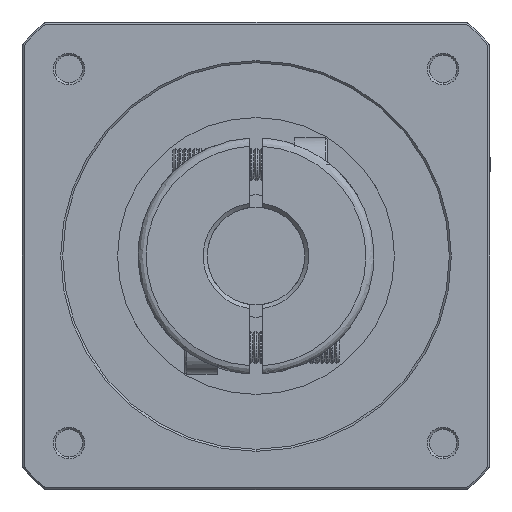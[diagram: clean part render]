
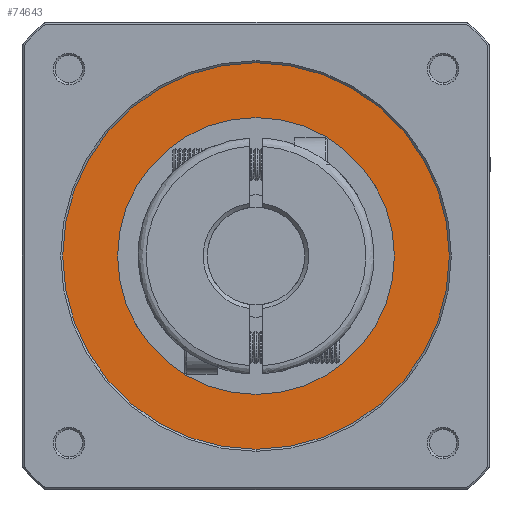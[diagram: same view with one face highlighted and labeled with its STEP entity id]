
A CAD part, front view. The second image highlights one B-rep face of the part: STEP entity #74643.
In plain terms, the highlighted planar face has unit normal (0, 1, 0).
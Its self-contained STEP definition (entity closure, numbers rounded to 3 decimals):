
#2362 = DIRECTION ( 'NONE',  ( 0., 0., -1. ) ) ;
#2710 = EDGE_CURVE ( 'NONE', #10079, #84926, #67877, .T. ) ;
#5386 = ORIENTED_EDGE ( 'NONE', *, *, #54806, .T. ) ;
#10079 = VERTEX_POINT ( 'NONE', #98232 ) ;
#16128 = CARTESIAN_POINT ( 'NONE',  ( 0., -131.611, 0. ) ) ;
#17791 = VERTEX_POINT ( 'NONE', #57536 ) ;
#22002 = FACE_OUTER_BOUND ( 'NONE', #53081, .T. ) ;
#23924 = DIRECTION ( 'NONE',  ( 0., 0., 1. ) ) ;
#24390 = CARTESIAN_POINT ( 'NONE',  ( -48.07, -131.611, -48.07 ) ) ;
#29654 = AXIS2_PLACEMENT_3D ( 'NONE', #37561, #91793, #45368 ) ;
#31225 = EDGE_LOOP ( 'NONE', ( #66202, #5386 ) ) ;
#32176 = DIRECTION ( 'NONE',  ( 1., 0., 0. ) ) ;
#32884 = VERTEX_POINT ( 'NONE', #34797 ) ;
#34797 = CARTESIAN_POINT ( 'NONE',  ( 0., -131.611, 34. ) ) ;
#37561 = CARTESIAN_POINT ( 'NONE',  ( 0., -131.611, 0. ) ) ;
#38237 = CARTESIAN_POINT ( 'NONE',  ( 0., -131.611, 0. ) ) ;
#40143 = AXIS2_PLACEMENT_3D ( 'NONE', #24390, #78514, #32176 ) ;
#43021 = ORIENTED_EDGE ( 'NONE', *, *, #2710, .F. ) ;
#45368 = DIRECTION ( 'NONE',  ( 0., 0., -1. ) ) ;
#46011 = DIRECTION ( 'NONE',  ( 0., 0., 1. ) ) ;
#47611 = EDGE_CURVE ( 'NONE', #84926, #10079, #80972, .T. ) ;
#48779 = DIRECTION ( 'NONE',  ( 0., -1., 0. ) ) ;
#49102 = ORIENTED_EDGE ( 'NONE', *, *, #47611, .F. ) ;
#53081 = EDGE_LOOP ( 'NONE', ( #49102, #43021 ) ) ;
#54806 = EDGE_CURVE ( 'NONE', #17791, #32884, #92690, .T. ) ;
#57536 = CARTESIAN_POINT ( 'NONE',  ( 0., -131.611, -34. ) ) ;
#59510 = AXIS2_PLACEMENT_3D ( 'NONE', #95170, #48779, #2362 ) ;
#60733 = FACE_BOUND ( 'NONE', #31225, .T. ) ;
#66202 = ORIENTED_EDGE ( 'NONE', *, *, #70901, .T. ) ;
#67336 = AXIS2_PLACEMENT_3D ( 'NONE', #38237, #92429, #46011 ) ;
#67877 = CIRCLE ( 'NONE', #59510, 47.5 ) ;
#70221 = DIRECTION ( 'NONE',  ( 0., -1., 0. ) ) ;
#70901 = EDGE_CURVE ( 'NONE', #32884, #17791, #96026, .T. ) ;
#74643 = ADVANCED_FACE ( 'NONE', ( #60733, #22002 ), #93755, .F. ) ;
#78514 = DIRECTION ( 'NONE',  ( 0., -1., 0. ) ) ;
#80972 = CIRCLE ( 'NONE', #29654, 47.5 ) ;
#84926 = VERTEX_POINT ( 'NONE', #89716 ) ;
#89716 = CARTESIAN_POINT ( 'NONE',  ( 0., -131.611, -47.5 ) ) ;
#91793 = DIRECTION ( 'NONE',  ( 0., -1., 0. ) ) ;
#92429 = DIRECTION ( 'NONE',  ( 0., -1., 0. ) ) ;
#92690 = CIRCLE ( 'NONE', #98157, 34. ) ;
#93755 = PLANE ( 'NONE',  #40143 ) ;
#95170 = CARTESIAN_POINT ( 'NONE',  ( 0., -131.611, 0. ) ) ;
#96026 = CIRCLE ( 'NONE', #67336, 34. ) ;
#98157 = AXIS2_PLACEMENT_3D ( 'NONE', #16128, #70221, #23924 ) ;
#98232 = CARTESIAN_POINT ( 'NONE',  ( 0., -131.611, 47.5 ) ) ;
